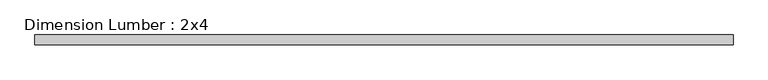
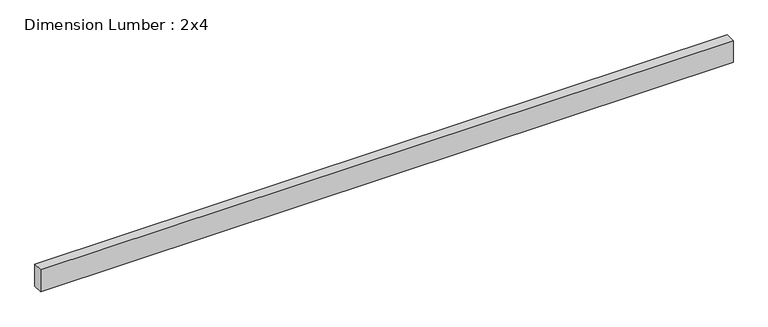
"""IFC4 building model written with IfcOpenShell, lengths in millimetres: beam geometry, Dimension Lumber : 2x4."""

from ifc_helpers import new_model, si_unit, frame, origin, place, context, project, spatial, polyline, outline, extrude, source, transform, mapped, element, save


def dimension_lumber_2x4_b7cbdda3(model_context):
    return source(origin(), model_context, "Body", "SweptSolid", [
        extrude(outline(polyline([(1333.5, 19.05), (1333.5, -19.05), (-1333.5, -19.05), (-1333.5, 19.05), (1333.5, 19.05)])), frame((0.0, 0.0, -44.45), z_axis=(0.0, 0.0, 1.0), x_axis=(1.0, 0.0, 0.0)), (0.0, 0.0, 1.0), 88.9),
    ])


if __name__ == "__main__":
    model = new_model("IFC4")
    model_context = context("Model", 3, world=origin())
    ifc_project = project(units=[si_unit("LENGTHUNIT", "METRE", prefix="MILLI")], contexts=[model_context])
    site = spatial("IfcSite", under=ifc_project)
    building = spatial("IfcBuilding", under=site)
    placement = place(None, origin())
    dimension_lumber_2x4_shape = dimension_lumber_2x4_b7cbdda3(model_context)
    element("IfcBeam", 1, ObjectType="Dimension Lumber : 2x4", at=placement, inside=building, context=model_context, shape_type="MappedRepresentation", body=[
        mapped(dimension_lumber_2x4_shape, transform((0.0, 0.0, 0.0), x_axis=(1.0, 0.0, 0.0), y_axis=(0.0, 1.0, 0.0), z_axis=(0.0, 0.0, 1.0))),
    ])
    save(model, "model.ifc")
